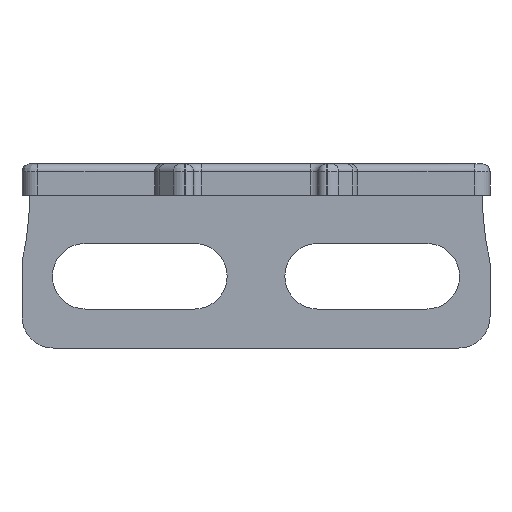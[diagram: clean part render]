
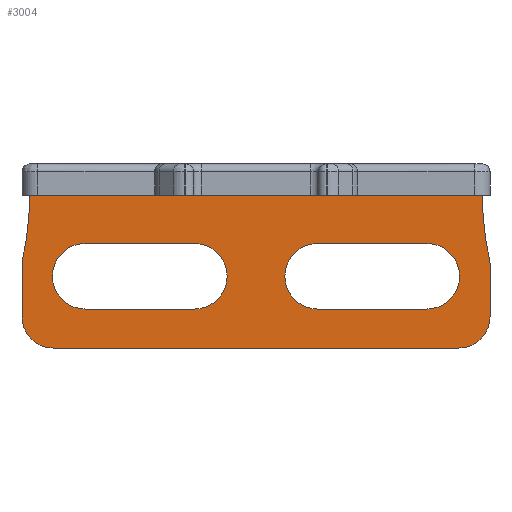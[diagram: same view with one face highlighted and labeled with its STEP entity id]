
A CAD part, front view. The second image highlights one B-rep face of the part: STEP entity #3004.
In plain terms, the highlighted planar face has unit normal (0, -1, 0).
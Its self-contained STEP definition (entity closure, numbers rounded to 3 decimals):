
#51=DIRECTION('',(-1.,0.,0.));
#52=VECTOR('',#51,29.002);
#53=CARTESIAN_POINT('',(314.501,69.853,6.654));
#54=LINE('',#53,#52);
#908=CARTESIAN_POINT('',(335.,69.853,6.854));
#909=DIRECTION('',(0.,-1.,0.));
#910=DIRECTION('',(-1.,0.,-0.01));
#911=AXIS2_PLACEMENT_3D('',#908,#909,#910);
#913=CARTESIAN_POINT('',(314.5,69.853,2.299));
#914=DIRECTION('',(0.,1.,0.));
#915=DIRECTION('',(0.976,0.,0.217));
#916=AXIS2_PLACEMENT_3D('',#913,#914,#915);
#918=DIRECTION('',(0.,0.,-1.));
#919=VECTOR('',#918,3.445);
#920=CARTESIAN_POINT('',(315.,69.853,2.299));
#921=LINE('',#920,#919);
#922=CARTESIAN_POINT('',(313.,69.853,-1.146));
#923=DIRECTION('',(0.,1.,0.));
#924=DIRECTION('',(1.,0.,0.));
#925=AXIS2_PLACEMENT_3D('',#922,#923,#924);
#927=CARTESIAN_POINT('',(287.,69.853,-1.146));
#928=DIRECTION('',(0.,1.,0.));
#929=DIRECTION('',(0.,0.,-1.));
#930=AXIS2_PLACEMENT_3D('',#927,#928,#929);
#932=DIRECTION('',(0.,0.,1.));
#933=VECTOR('',#932,3.445);
#934=CARTESIAN_POINT('',(285.,69.853,-1.146));
#935=LINE('',#934,#933);
#936=CARTESIAN_POINT('',(285.5,69.853,2.299));
#937=DIRECTION('',(0.,1.,0.));
#938=DIRECTION('',(-1.,0.,0.));
#939=AXIS2_PLACEMENT_3D('',#936,#937,#938);
#941=CARTESIAN_POINT('',(265.,69.853,6.854));
#942=DIRECTION('',(0.,-1.,0.));
#943=DIRECTION('',(0.976,0.,-0.217));
#944=AXIS2_PLACEMENT_3D('',#941,#942,#943);
#946=CARTESIAN_POINT('',(310.95,69.853,1.454));
#947=DIRECTION('',(0.,-1.,0.));
#948=DIRECTION('',(0.,0.,-1.));
#949=AXIS2_PLACEMENT_3D('',#946,#947,#948);
#951=CARTESIAN_POINT('',(310.95,69.853,1.454));
#952=DIRECTION('',(0.,-1.,0.));
#953=DIRECTION('',(1.,0.,0.));
#954=AXIS2_PLACEMENT_3D('',#951,#952,#953);
#956=CARTESIAN_POINT('',(303.95,69.853,1.454));
#957=DIRECTION('',(0.,-1.,0.));
#958=DIRECTION('',(0.,0.,1.));
#959=AXIS2_PLACEMENT_3D('',#956,#957,#958);
#961=CARTESIAN_POINT('',(303.95,69.853,1.454));
#962=DIRECTION('',(0.,-1.,0.));
#963=DIRECTION('',(-1.,0.,0.));
#964=AXIS2_PLACEMENT_3D('',#961,#962,#963);
#966=CARTESIAN_POINT('',(296.05,69.853,1.454));
#967=DIRECTION('',(0.,-1.,0.));
#968=DIRECTION('',(0.,0.,-1.));
#969=AXIS2_PLACEMENT_3D('',#966,#967,#968);
#971=CARTESIAN_POINT('',(296.05,69.853,1.454));
#972=DIRECTION('',(0.,-1.,0.));
#973=DIRECTION('',(1.,0.,0.));
#974=AXIS2_PLACEMENT_3D('',#971,#972,#973);
#976=CARTESIAN_POINT('',(289.05,69.853,1.454));
#977=DIRECTION('',(0.,-1.,0.));
#978=DIRECTION('',(0.,0.,1.));
#979=AXIS2_PLACEMENT_3D('',#976,#977,#978);
#981=CARTESIAN_POINT('',(289.05,69.853,1.454));
#982=DIRECTION('',(0.,-1.,0.));
#983=DIRECTION('',(-1.,0.,0.));
#984=AXIS2_PLACEMENT_3D('',#981,#982,#983);
#1104=DIRECTION('',(1.,0.,0.));
#1105=VECTOR('',#1104,26.);
#1106=CARTESIAN_POINT('',(287.,69.853,-3.146));
#1107=LINE('',#1106,#1105);
#1124=DIRECTION('',(-1.,0.,0.));
#1125=VECTOR('',#1124,7.);
#1126=CARTESIAN_POINT('',(310.95,69.853,
-0.646));
#1127=LINE('',#1126,#1125);
#1136=DIRECTION('',(1.,0.,0.));
#1137=VECTOR('',#1136,7.);
#1138=CARTESIAN_POINT('',(303.95,69.853,3.554));
#1139=LINE('',#1138,#1137);
#1156=DIRECTION('',(1.,0.,0.));
#1157=VECTOR('',#1156,7.);
#1158=CARTESIAN_POINT('',(289.05,69.853,3.554));
#1159=LINE('',#1158,#1157);
#1168=DIRECTION('',(-1.,0.,0.));
#1169=VECTOR('',#1168,7.);
#1170=CARTESIAN_POINT('',(296.05,69.853,
-0.646));
#1171=LINE('',#1170,#1169);
#1301=CARTESIAN_POINT('',(314.501,69.853,6.654));
#1302=VERTEX_POINT('',#1301);
#1303=CARTESIAN_POINT('',(285.499,69.853,6.654));
#1304=VERTEX_POINT('',#1303);
#1531=CARTESIAN_POINT('',(296.05,69.853,3.554));
#1532=VERTEX_POINT('',#1531);
#1533=CARTESIAN_POINT('',(296.05,69.853,
-0.646));
#1534=CARTESIAN_POINT('',(298.15,69.853,1.454));
#1535=VERTEX_POINT('',#1533);
#1536=VERTEX_POINT('',#1534);
#1537=CARTESIAN_POINT('',(289.05,69.853,3.554));
#1538=VERTEX_POINT('',#1537);
#1539=CARTESIAN_POINT('',(289.05,69.853,
-0.646));
#1540=VERTEX_POINT('',#1539);
#1541=CARTESIAN_POINT('',(286.95,69.853,1.454));
#1542=VERTEX_POINT('',#1541);
#1543=CARTESIAN_POINT('',(314.988,69.853,2.408));
#1544=VERTEX_POINT('',#1543);
#1545=CARTESIAN_POINT('',(315.,69.853,2.299));
#1546=VERTEX_POINT('',#1545);
#1547=CARTESIAN_POINT('',(315.,69.853,-1.146));
#1548=VERTEX_POINT('',#1547);
#1549=CARTESIAN_POINT('',(313.,69.853,-3.146));
#1550=VERTEX_POINT('',#1549);
#1551=CARTESIAN_POINT('',(287.,69.853,-3.146));
#1552=VERTEX_POINT('',#1551);
#1553=CARTESIAN_POINT('',(285.,69.853,-1.146));
#1554=VERTEX_POINT('',#1553);
#1555=CARTESIAN_POINT('',(285.,69.853,2.299));
#1556=VERTEX_POINT('',#1555);
#1557=CARTESIAN_POINT('',(285.012,69.853,2.408));
#1558=VERTEX_POINT('',#1557);
#1559=CARTESIAN_POINT('',(310.95,69.853,
-0.646));
#1560=CARTESIAN_POINT('',(303.95,69.853,
-0.646));
#1561=VERTEX_POINT('',#1559);
#1562=VERTEX_POINT('',#1560);
#1563=CARTESIAN_POINT('',(313.05,69.853,1.454));
#1564=VERTEX_POINT('',#1563);
#1565=CARTESIAN_POINT('',(310.95,69.853,3.554));
#1566=VERTEX_POINT('',#1565);
#1567=CARTESIAN_POINT('',(303.95,69.853,3.554));
#1568=VERTEX_POINT('',#1567);
#1569=CARTESIAN_POINT('',(301.85,69.853,1.454));
#1570=VERTEX_POINT('',#1569);
#2951=CARTESIAN_POINT('',(300.,69.853,44.352));
#2952=DIRECTION('',(0.,-1.,0.));
#2953=DIRECTION('',(0.,0.,-1.));
#2954=AXIS2_PLACEMENT_3D('',#2951,#2952,#2953);
#2955=PLANE('',#2954);
#2956=ORIENTED_EDGE('',*,*,#1720,.F.);
#2958=ORIENTED_EDGE('',*,*,#2957,.T.);
#2960=ORIENTED_EDGE('',*,*,#2959,.T.);
#2962=ORIENTED_EDGE('',*,*,#2961,.T.);
#2964=ORIENTED_EDGE('',*,*,#2963,.T.);
#2966=ORIENTED_EDGE('',*,*,#2965,.F.);
#2968=ORIENTED_EDGE('',*,*,#2967,.T.);
#2970=ORIENTED_EDGE('',*,*,#2969,.T.);
#2972=ORIENTED_EDGE('',*,*,#2971,.T.);
#2973=ORIENTED_EDGE('',*,*,#2943,.T.);
#2974=EDGE_LOOP('',(#2956,#2958,#2960,#2962,#2964,#2966,#2968,#2970,#2972,
#2973));
#2975=FACE_OUTER_BOUND('',#2974,.F.);
#2977=ORIENTED_EDGE('',*,*,#2976,.F.);
#2979=ORIENTED_EDGE('',*,*,#2978,.T.);
#2981=ORIENTED_EDGE('',*,*,#2980,.T.);
#2983=ORIENTED_EDGE('',*,*,#2982,.F.);
#2985=ORIENTED_EDGE('',*,*,#2984,.T.);
#2987=ORIENTED_EDGE('',*,*,#2986,.T.);
#2988=EDGE_LOOP('',(#2977,#2979,#2981,#2983,#2985,#2987));
#2989=FACE_BOUND('',#2988,.F.);
#2991=ORIENTED_EDGE('',*,*,#2990,.T.);
#2993=ORIENTED_EDGE('',*,*,#2992,.T.);
#2995=ORIENTED_EDGE('',*,*,#2994,.F.);
#2997=ORIENTED_EDGE('',*,*,#2996,.T.);
#2999=ORIENTED_EDGE('',*,*,#2998,.T.);
#3001=ORIENTED_EDGE('',*,*,#3000,.F.);
#3002=EDGE_LOOP('',(#2991,#2993,#2995,#2997,#2999,#3001));
#3003=FACE_BOUND('',#3002,.F.);
#912=CIRCLE('',#911,20.5);
#917=CIRCLE('',#916,0.5);
#926=CIRCLE('',#925,2.);
#931=CIRCLE('',#930,2.);
#940=CIRCLE('',#939,0.5);
#945=CIRCLE('',#944,20.5);
#950=CIRCLE('',#949,2.1);
#955=CIRCLE('',#954,2.1);
#960=CIRCLE('',#959,2.1);
#965=CIRCLE('',#964,2.1);
#970=CIRCLE('',#969,2.1);
#975=CIRCLE('',#974,2.1);
#980=CIRCLE('',#979,2.1);
#985=CIRCLE('',#984,2.1);
#1720=EDGE_CURVE('',#1302,#1304,#54,.T.);
#2943=EDGE_CURVE('',#1558,#1304,#945,.T.);
#2957=EDGE_CURVE('',#1302,#1544,#912,.T.);
#2959=EDGE_CURVE('',#1544,#1546,#917,.T.);
#2961=EDGE_CURVE('',#1546,#1548,#921,.T.);
#2963=EDGE_CURVE('',#1548,#1550,#926,.T.);
#2965=EDGE_CURVE('',#1552,#1550,#1107,.T.);
#2967=EDGE_CURVE('',#1552,#1554,#931,.T.);
#2969=EDGE_CURVE('',#1554,#1556,#935,.T.);
#2971=EDGE_CURVE('',#1556,#1558,#940,.T.);
#2976=EDGE_CURVE('',#1561,#1562,#1127,.T.);
#2978=EDGE_CURVE('',#1561,#1564,#950,.T.);
#2980=EDGE_CURVE('',#1564,#1566,#955,.T.);
#2982=EDGE_CURVE('',#1568,#1566,#1139,.T.);
#2984=EDGE_CURVE('',#1568,#1570,#960,.T.);
#2986=EDGE_CURVE('',#1570,#1562,#965,.T.);
#2990=EDGE_CURVE('',#1535,#1536,#970,.T.);
#2992=EDGE_CURVE('',#1536,#1532,#975,.T.);
#2994=EDGE_CURVE('',#1538,#1532,#1159,.T.);
#2996=EDGE_CURVE('',#1538,#1542,#980,.T.);
#2998=EDGE_CURVE('',#1542,#1540,#985,.T.);
#3000=EDGE_CURVE('',#1535,#1540,#1171,.T.);
#3004=ADVANCED_FACE('',(#2975,#2989,#3003),#2955,.T.);
